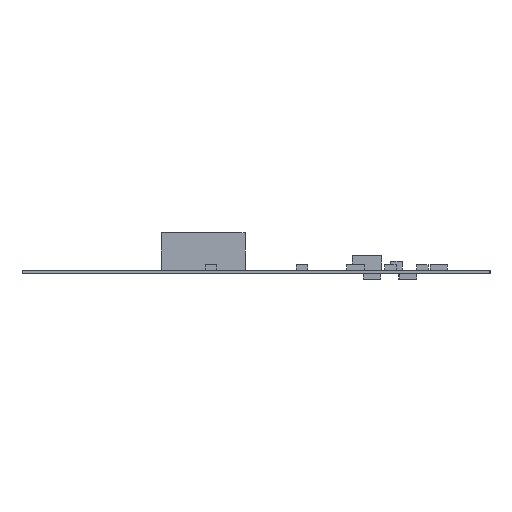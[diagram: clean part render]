
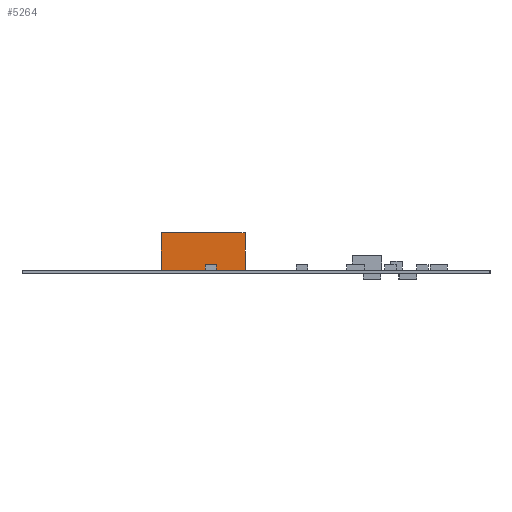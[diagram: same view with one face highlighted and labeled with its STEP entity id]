
A CAD part, left-side view. The second image highlights one B-rep face of the part: STEP entity #5264.
In plain terms, the highlighted planar face has unit normal (-1, 0, 0).
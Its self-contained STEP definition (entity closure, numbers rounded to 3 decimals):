
#5264 = ADVANCED_FACE('',(#5265),#5299,.T.);
#5265 = FACE_BOUND('',#5266,.T.);
#5266 = EDGE_LOOP('',(#5267,#5277,#5285,#5293));
#5267 = ORIENTED_EDGE('',*,*,#5268,.T.);
#5268 = EDGE_CURVE('',#5269,#5271,#5273,.T.);
#5269 = VERTEX_POINT('',#5270);
#5270 = CARTESIAN_POINT('',(-4.7,-5.2,0.));
#5271 = VERTEX_POINT('',#5272);
#5272 = CARTESIAN_POINT('',(-4.7,-5.2,4.65));
#5273 = LINE('',#5274,#5275);
#5274 = CARTESIAN_POINT('',(-4.7,-5.2,0.));
#5275 = VECTOR('',#5276,1.);
#5276 = DIRECTION('',(0.,0.,1.));
#5277 = ORIENTED_EDGE('',*,*,#5278,.T.);
#5278 = EDGE_CURVE('',#5271,#5279,#5281,.T.);
#5279 = VERTEX_POINT('',#5280);
#5280 = CARTESIAN_POINT('',(-4.7,5.2,4.65));
#5281 = LINE('',#5282,#5283);
#5282 = CARTESIAN_POINT('',(-4.7,-5.2,4.65));
#5283 = VECTOR('',#5284,1.);
#5284 = DIRECTION('',(0.,1.,0.));
#5285 = ORIENTED_EDGE('',*,*,#5286,.F.);
#5286 = EDGE_CURVE('',#5287,#5279,#5289,.T.);
#5287 = VERTEX_POINT('',#5288);
#5288 = CARTESIAN_POINT('',(-4.7,5.2,0.));
#5289 = LINE('',#5290,#5291);
#5290 = CARTESIAN_POINT('',(-4.7,5.2,0.));
#5291 = VECTOR('',#5292,1.);
#5292 = DIRECTION('',(0.,0.,1.));
#5293 = ORIENTED_EDGE('',*,*,#5294,.F.);
#5294 = EDGE_CURVE('',#5269,#5287,#5295,.T.);
#5295 = LINE('',#5296,#5297);
#5296 = CARTESIAN_POINT('',(-4.7,-5.2,0.));
#5297 = VECTOR('',#5298,1.);
#5298 = DIRECTION('',(0.,1.,0.));
#5299 = PLANE('',#5300);
#5300 = AXIS2_PLACEMENT_3D('',#5301,#5302,#5303);
#5301 = CARTESIAN_POINT('',(-4.7,-5.2,0.));
#5302 = DIRECTION('',(-1.,0.,0.));
#5303 = DIRECTION('',(0.,1.,0.));
